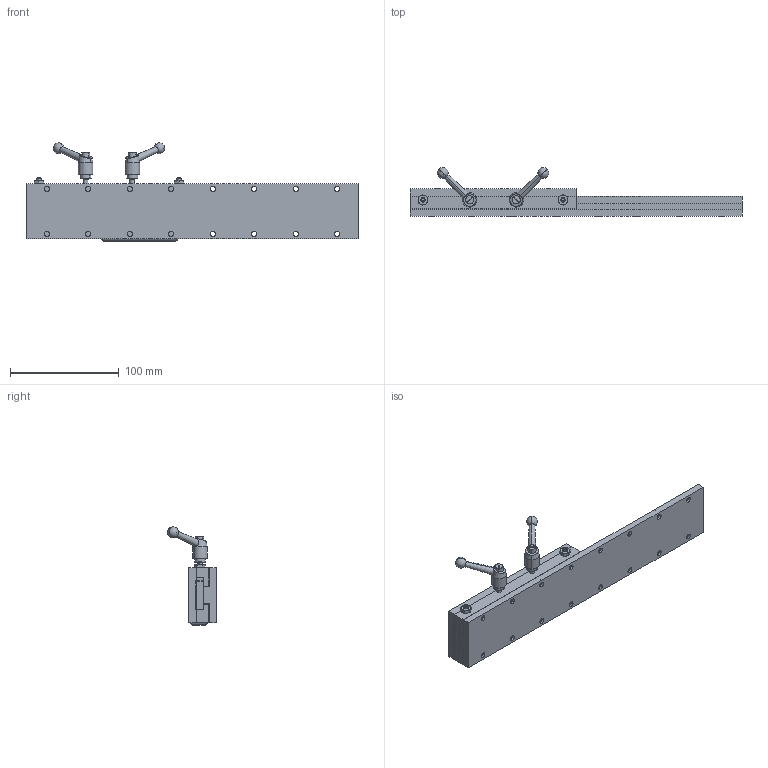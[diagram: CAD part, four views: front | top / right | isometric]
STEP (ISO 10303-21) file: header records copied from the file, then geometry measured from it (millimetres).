
FILE_DESCRIPTION (( 'STEP AP214' ), '1' );
FILE_NAME ('SW02-SL06-BL12-LH.STEP', '2011-06-16T19:22:08', ( '' ), ( '' ), 'SwSTEP 2.0', 'SolidWorks 2011', '' );
FILE_SCHEMA (( 'AUTOMOTIVE_DESIGN' ));
Length unit declared in the file: inch
Products named in the file (13): KHB_52; _MSHXNUT_MSHXNUT 0.164-32-D-N; _SSCUPSOC_SSCUPSKT 0.164-32x0.625-HX-N; Tag; Gen2 Bar_02x06 BAR; Gen2 Adj Gib_02x06 ADJ GIB; Gen2 Gib_02x06 GIB; Gen2 Top plate_02x06 TPLATE; Gen2 BASE_02x12 BASE; Gen2 Hardplate_02x12 HPLATE; Gen2 Baseplate_02x12 BASE; SW02-SL06-BL12-LH; Gen2 SADDLE_02x06 SADDLE with LOCK HANDLES
Assembly tree (15 placements, depth 3):
  SW02-SL06-BL12-LH
    Gen2 BASE_02x12 BASE
      Gen2 Hardplate_02x12 HPLATE
      Gen2 Baseplate_02x12 BASE
    Gen2 SADDLE_02x06 SADDLE with LOCK HANDLES
      _SSCUPSOC_SSCUPSKT 0.164-32x0.625-HX-N  x2
      KHB_52  x2
      _MSHXNUT_MSHXNUT 0.164-32-D-N  x2
      Gen2 Gib_02x06 GIB
      Gen2 Bar_02x06 BAR
      Gen2 Adj Gib_02x06 ADJ GIB
      Tag
      Gen2 Top plate_02x06 TPLATE
Bounding box: 304.8 x 44.7 x 90.19 mm (x, y, z)
Volume: 287428.2 mm3; surface area: 124804.3 mm2
Topology: 18 solids, 18 shells, 346 faces, 786 edges, 492 vertices
Faces by surface type: plane 150, cylinder 120, cone 68, sphere 4, bspline 4
Entity records: 9407 total; most frequent: CARTESIAN_POINT 2262, DIRECTION 1378, ORIENTED_EDGE 1220, EDGE_CURVE 610, AXIS2_PLACEMENT_3D 523, VERTEX_POINT 393, EDGE_LOOP 345, LINE 332
